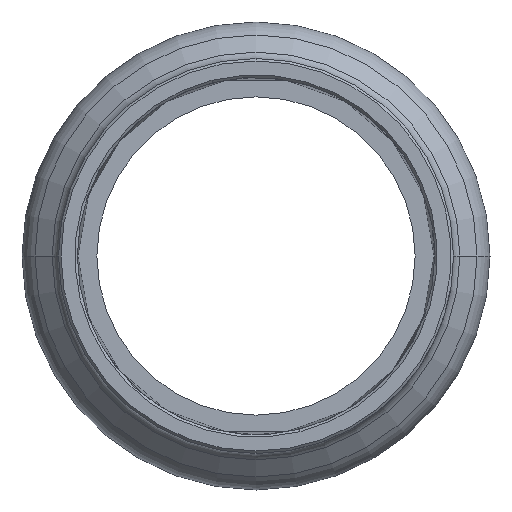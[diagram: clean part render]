
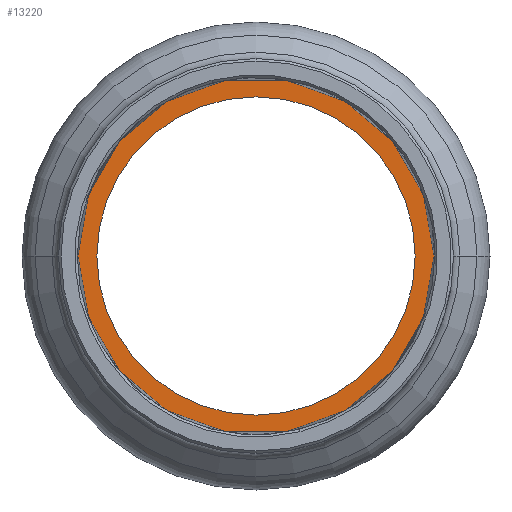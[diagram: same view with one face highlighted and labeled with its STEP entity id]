
A CAD part, front view. The second image highlights one B-rep face of the part: STEP entity #13220.
In plain terms, the highlighted planar face has unit normal (0, -1, 0).
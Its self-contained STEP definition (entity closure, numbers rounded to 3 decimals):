
#12650=CARTESIAN_POINT('',(31.006,27.085,
0.));
#12660=DIRECTION('',(0.,-1.,0.));
#12670=DIRECTION('',(-1.,0.,0.));
#12680=AXIS2_PLACEMENT_3D('',#12650,#12660,#12670);
#12690=CIRCLE('',#12680,14.15);
#12700=CARTESIAN_POINT('',(31.006,27.085,14.15));
#12710=VERTEX_POINT('',#12700);
#12720=CARTESIAN_POINT('',(16.856,27.085,
0.));
#12730=VERTEX_POINT('',#12720);
#12740=EDGE_CURVE('',#12710,#12730,#12690,.T.);
#12870=CARTESIAN_POINT('',(45.156,27.085,
0.));
#12880=VERTEX_POINT('',#12870);
#12910=EDGE_CURVE('',#12880,#12710,#12690,.T.);
#12960=CARTESIAN_POINT('',(45.906,27.085,
0.));
#12970=DIRECTION('',(0.,1.,0.));
#12980=DIRECTION('',(0.,0.,1.));
#12990=AXIS2_PLACEMENT_3D('',#12960,#12970,#12980);
#13000=PLANE('',#12990);
#13010=EDGE_CURVE('',#12730,#12880,#12690,.T.);
#13020=ORIENTED_EDGE('',*,*,#13010,.T.);
#13030=ORIENTED_EDGE('',*,*,#12740,.T.);
#13040=ORIENTED_EDGE('',*,*,#12910,.T.);
#13050=EDGE_LOOP('',(#13040,#13030,#13020));
#13060=FACE_OUTER_BOUND('',#13050,.T.);
#13070=CARTESIAN_POINT('',(31.006,27.085,
0.));
#13080=DIRECTION('',(0.,1.,0.));
#13090=DIRECTION('',(0.,0.,1.));
#13100=AXIS2_PLACEMENT_3D('',#13070,#13080,#13090);
#13110=CIRCLE('',#13100,12.65);
#13120=CARTESIAN_POINT('',(31.006,27.085,12.65));
#13130=VERTEX_POINT('',#13120);
#13140=CARTESIAN_POINT('',(31.006,27.085,-12.65));
#13150=VERTEX_POINT('',#13140);
#13160=EDGE_CURVE('',#13130,#13150,#13110,.T.);
#13170=ORIENTED_EDGE('',*,*,#13160,.T.);
#13180=EDGE_CURVE('',#13150,#13130,#13110,.T.);
#13190=ORIENTED_EDGE('',*,*,#13180,.T.);
#13200=EDGE_LOOP('',(#13190,#13170));
#13210=FACE_BOUND('',#13200,.T.);
#13220=ADVANCED_FACE('',(#13060,#13210),#13000,.F.);
